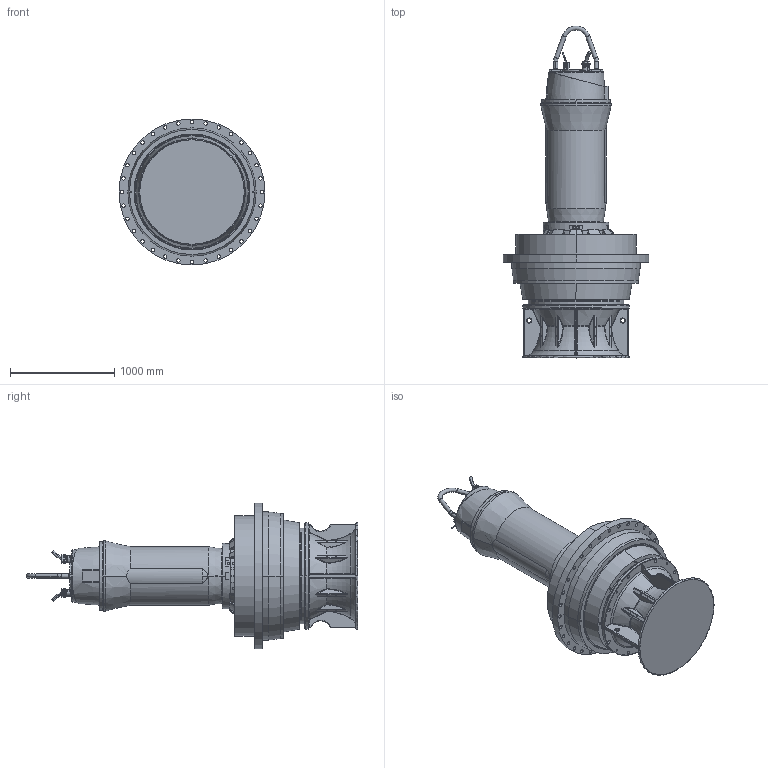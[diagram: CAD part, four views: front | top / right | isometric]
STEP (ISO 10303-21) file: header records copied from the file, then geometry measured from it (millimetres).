
FILE_DESCRIPTION (( 'STEP AP214' ), '1' );
FILE_NAME ('PE6_AFLX1203_DIN_C_NG2.STEP', '2017-04-21T08:32:48', ( '' ), ( '' ), 'SwSTEP 2.0', 'SolidWorks 2017', '' );
FILE_SCHEMA (( 'AUTOMOTIVE_DESIGN' ));
Length unit declared in the file: millimetre
Products named in the file (1): PE6_AFLX1203_DIN_C_NG2
Bounding box: 1400 x 3184 x 1400 mm (x, y, z)
Volume: 1354750258.1 mm3; surface area: 14124883 mm2
Topology: 4 solids, 25 shells, 2719 faces, 6572 edges, 3824 vertices
Faces by surface type: bspline 676, plane 667, cylinder 623, cone 325, torus 309, sphere 119
Entity records: 284602 total; most frequent: CARTESIAN_POINT 196701, ORIENTED_EDGE 12776, DIRECTION 11151, EDGE_CURVE 6388, AXIS2_PLACEMENT_3D 4575, VERTEX_POINT 3823, EDGE_LOOP 2975, UNCERTAINTY_MEASURE_WITH_UNIT 2725
